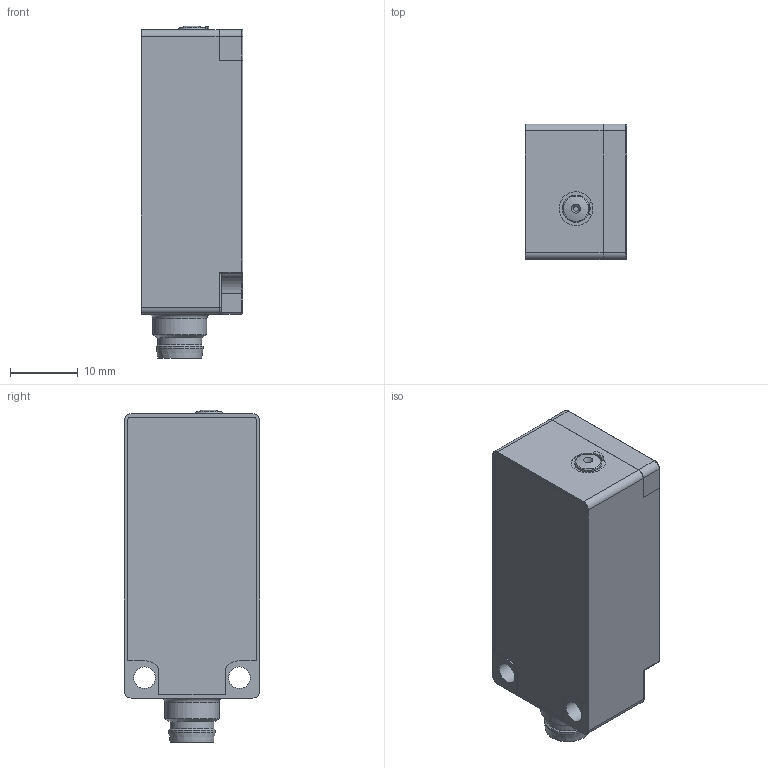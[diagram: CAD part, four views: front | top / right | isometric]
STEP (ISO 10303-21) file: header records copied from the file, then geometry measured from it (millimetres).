
FILE_DESCRIPTION( ( 'Unknown' ), '1' );
FILE_NAME( '//baumerholding.org/frauenfeld/bereich/BECH/Services/me_CAD/Solid Edge/Models/Dokumentationen/Opto/FxDK 20/Vereinfachte Modelle/Neutralformate/FxDK_20_Button_S35A.stp', 'Unknown', ( 'Unknown' ), ( 'Unknown' ), 'XStep 1.0', 'Unknown', ' ' );
FILE_SCHEMA( ( 'CONFIG_CONTROL_DESIGN' ) );
Length unit declared in the file: millimetre
Products named in the file (1): 143471
Bounding box: 15.01 x 20 x 49.06 mm (x, y, z)
Volume: 12222.3 mm3; surface area: 4032.4 mm2
Topology: 1 solids, 1 shells, 180 faces, 471 edges, 299 vertices
Faces by surface type: plane 97, cylinder 62, torus 12, sphere 4, cone 4, bspline 1
Full cylindrical faces by diameter (mm): 3.2 x2, 4 x1, 5.8 x1, 6.5 x1, 6.9 x1, 8 x1
Entity records: 5539 total; most frequent: CARTESIAN_POINT 1064, DIRECTION 946, ORIENTED_EDGE 894, EDGE_CURVE 447, AXIS2_PLACEMENT_3D 327, VERTEX_POINT 295, LINE 292, VECTOR 292
